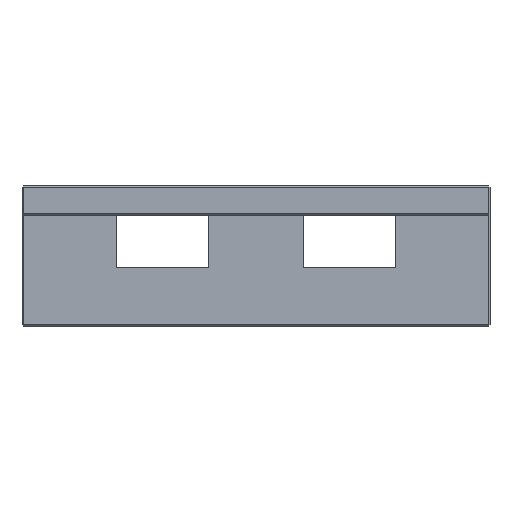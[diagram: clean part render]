
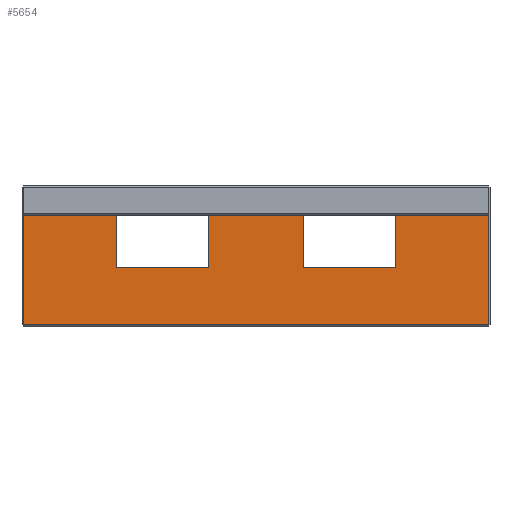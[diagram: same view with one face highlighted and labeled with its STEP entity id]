
A CAD part, left-side view. The second image highlights one B-rep face of the part: STEP entity #5654.
In plain terms, the highlighted planar face has unit normal (-1, 0, 0).
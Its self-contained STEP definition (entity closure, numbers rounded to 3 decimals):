
#4 = EDGE_CURVE ( 'NONE', #6732, #5585, #2521, .T. ) ;
#75 = VERTEX_POINT ( 'NONE', #3074 ) ;
#90 = ORIENTED_EDGE ( 'NONE', *, *, #397, .F. ) ;
#96 = CARTESIAN_POINT ( 'NONE',  ( -12., -19.875, -2.5 ) ) ;
#142 = CARTESIAN_POINT ( 'NONE',  ( -12., -11.899, -2.5 ) ) ;
#148 = CARTESIAN_POINT ( 'NONE',  ( -12., 19.875, -2.5 ) ) ;
#155 = ORIENTED_EDGE ( 'NONE', *, *, #2533, .T. ) ;
#167 = EDGE_CURVE ( 'NONE', #6732, #6790, #3969, .T. ) ;
#290 = CARTESIAN_POINT ( 'NONE',  ( -12., -4.101, -7. ) ) ;
#319 = CARTESIAN_POINT ( 'NONE',  ( -12., 11.899, -2.5 ) ) ;
#389 = CARTESIAN_POINT ( 'NONE',  ( -12., 20., -2.5 ) ) ;
#397 = EDGE_CURVE ( 'NONE', #2288, #5831, #979, .T. ) ;
#488 = ORIENTED_EDGE ( 'NONE', *, *, #4922, .F. ) ;
#656 = DIRECTION ( 'NONE',  ( 0., 0., 1. ) ) ;
#843 = ORIENTED_EDGE ( 'NONE', *, *, #1012, .T. ) ;
#936 = LINE ( 'NONE', #4537, #2255 ) ;
#979 = LINE ( 'NONE', #3104, #4486 ) ;
#996 = DIRECTION ( 'NONE',  ( 0., 0., -1. ) ) ;
#1012 = EDGE_CURVE ( 'NONE', #1168, #5802, #6711, .T. ) ;
#1112 = AXIS2_PLACEMENT_3D ( 'NONE', #389, #5778, #996 ) ;
#1168 = VERTEX_POINT ( 'NONE', #6008 ) ;
#1231 = LINE ( 'NONE', #4480, #4329 ) ;
#1371 = VECTOR ( 'NONE', #3526, 1000. ) ;
#1518 = DIRECTION ( 'NONE',  ( 0., -1., 0. ) ) ;
#1519 = VECTOR ( 'NONE', #4863, 1000. ) ;
#1722 = EDGE_CURVE ( 'NONE', #5802, #5831, #2108, .T. ) ;
#1726 = CARTESIAN_POINT ( 'NONE',  ( -12., -11.899, -15.544 ) ) ;
#1803 = CARTESIAN_POINT ( 'NONE',  ( -12., 20., -7. ) ) ;
#1806 = ORIENTED_EDGE ( 'NONE', *, *, #167, .F. ) ;
#1970 = ORIENTED_EDGE ( 'NONE', *, *, #4103, .T. ) ;
#1991 = CARTESIAN_POINT ( 'NONE',  ( -12., 20., -7. ) ) ;
#2108 = LINE ( 'NONE', #5155, #2624 ) ;
#2255 = VECTOR ( 'NONE', #5608, 1000. ) ;
#2270 = LINE ( 'NONE', #1803, #4222 ) ;
#2288 = VERTEX_POINT ( 'NONE', #142 ) ;
#2496 = ORIENTED_EDGE ( 'NONE', *, *, #6724, .F. ) ;
#2521 = LINE ( 'NONE', #1991, #1371 ) ;
#2533 = EDGE_CURVE ( 'NONE', #75, #5551, #2270, .T. ) ;
#2594 = CARTESIAN_POINT ( 'NONE',  ( -12., 20., -2.5 ) ) ;
#2624 = VECTOR ( 'NONE', #6758, 1000. ) ;
#2671 = CARTESIAN_POINT ( 'NONE',  ( -12., 20., -11.875 ) ) ;
#2741 = VECTOR ( 'NONE', #5569, 1000. ) ;
#2760 = DIRECTION ( 'NONE',  ( 0., 1., 0. ) ) ;
#2886 = CARTESIAN_POINT ( 'NONE',  ( -12., 4.101, -15.544 ) ) ;
#2909 = LINE ( 'NONE', #2594, #1519 ) ;
#3060 = LINE ( 'NONE', #6604, #2741 ) ;
#3074 = CARTESIAN_POINT ( 'NONE',  ( -12., -11.899, -7. ) ) ;
#3104 = CARTESIAN_POINT ( 'NONE',  ( -12., 20., -2.5 ) ) ;
#3375 = DIRECTION ( 'NONE',  ( 0., 0., 1. ) ) ;
#3459 = CARTESIAN_POINT ( 'NONE',  ( -12., 4.101, -2.5 ) ) ;
#3504 = ORIENTED_EDGE ( 'NONE', *, *, #3711, .F. ) ;
#3526 = DIRECTION ( 'NONE',  ( 0., 1., 0. ) ) ;
#3619 = PLANE ( 'NONE',  #1112 ) ;
#3711 = EDGE_CURVE ( 'NONE', #5401, #4654, #2909, .T. ) ;
#3717 = VECTOR ( 'NONE', #1518, 1000. ) ;
#3732 = CARTESIAN_POINT ( 'NONE',  ( -12., -4.101, -2.5 ) ) ;
#3969 = LINE ( 'NONE', #2886, #4374 ) ;
#4103 = EDGE_CURVE ( 'NONE', #5401, #1168, #3060, .T. ) ;
#4222 = VECTOR ( 'NONE', #2760, 1000. ) ;
#4329 = VECTOR ( 'NONE', #5110, 1000. ) ;
#4374 = VECTOR ( 'NONE', #4423, 1000. ) ;
#4423 = DIRECTION ( 'NONE',  ( 0., 0., 1. ) ) ;
#4480 = CARTESIAN_POINT ( 'NONE',  ( -12., 11.899, -15.544 ) ) ;
#4486 = VECTOR ( 'NONE', #5771, 1000. ) ;
#4537 = CARTESIAN_POINT ( 'NONE',  ( -12., 20., -2.5 ) ) ;
#4564 = EDGE_LOOP ( 'NONE', ( #3504, #1970, #843, #5446, #90, #488, #155, #5970, #2496, #1806, #5715, #5473 ) ) ;
#4587 = CARTESIAN_POINT ( 'NONE',  ( -12., 4.101, -7. ) ) ;
#4654 = VERTEX_POINT ( 'NONE', #319 ) ;
#4863 = DIRECTION ( 'NONE',  ( 0., -1., 0. ) ) ;
#4922 = EDGE_CURVE ( 'NONE', #75, #2288, #6493, .T. ) ;
#5110 = DIRECTION ( 'NONE',  ( 0., 0., 1. ) ) ;
#5145 = EDGE_CURVE ( 'NONE', #5585, #4654, #1231, .T. ) ;
#5155 = CARTESIAN_POINT ( 'NONE',  ( -12., -19.875, -2.5 ) ) ;
#5331 = VECTOR ( 'NONE', #656, 1000. ) ;
#5401 = VERTEX_POINT ( 'NONE', #148 ) ;
#5446 = ORIENTED_EDGE ( 'NONE', *, *, #1722, .T. ) ;
#5473 = ORIENTED_EDGE ( 'NONE', *, *, #5145, .T. ) ;
#5551 = VERTEX_POINT ( 'NONE', #290 ) ;
#5569 = DIRECTION ( 'NONE',  ( 0., 0., -1. ) ) ;
#5585 = VERTEX_POINT ( 'NONE', #6165 ) ;
#5608 = DIRECTION ( 'NONE',  ( 0., -1., 0. ) ) ;
#5654 = ADVANCED_FACE ( 'NONE', ( #6451 ), #3619, .F. ) ;
#5715 = ORIENTED_EDGE ( 'NONE', *, *, #4, .T. ) ;
#5771 = DIRECTION ( 'NONE',  ( 0., -1., 0. ) ) ;
#5778 = DIRECTION ( 'NONE',  ( 1., 0., 0. ) ) ;
#5802 = VERTEX_POINT ( 'NONE', #5973 ) ;
#5831 = VERTEX_POINT ( 'NONE', #96 ) ;
#5886 = EDGE_CURVE ( 'NONE', #5551, #5962, #6113, .T. ) ;
#5962 = VERTEX_POINT ( 'NONE', #3732 ) ;
#5970 = ORIENTED_EDGE ( 'NONE', *, *, #5886, .T. ) ;
#5973 = CARTESIAN_POINT ( 'NONE',  ( -12., -19.875, -11.875 ) ) ;
#6008 = CARTESIAN_POINT ( 'NONE',  ( -12., 19.875, -11.875 ) ) ;
#6032 = VECTOR ( 'NONE', #3375, 1000. ) ;
#6113 = LINE ( 'NONE', #6496, #6032 ) ;
#6165 = CARTESIAN_POINT ( 'NONE',  ( -12., 11.899, -7. ) ) ;
#6451 = FACE_OUTER_BOUND ( 'NONE', #4564, .T. ) ;
#6493 = LINE ( 'NONE', #1726, #5331 ) ;
#6496 = CARTESIAN_POINT ( 'NONE',  ( -12., -4.101, -15.544 ) ) ;
#6604 = CARTESIAN_POINT ( 'NONE',  ( -12., 19.875, -12. ) ) ;
#6711 = LINE ( 'NONE', #2671, #3717 ) ;
#6724 = EDGE_CURVE ( 'NONE', #6790, #5962, #936, .T. ) ;
#6732 = VERTEX_POINT ( 'NONE', #4587 ) ;
#6758 = DIRECTION ( 'NONE',  ( 0., 0., 1. ) ) ;
#6790 = VERTEX_POINT ( 'NONE', #3459 ) ;
